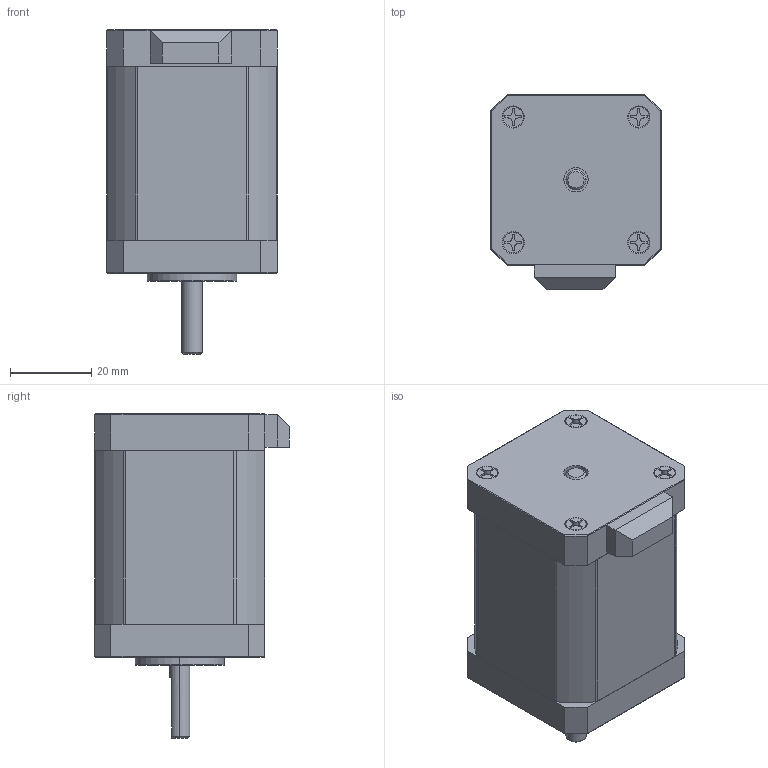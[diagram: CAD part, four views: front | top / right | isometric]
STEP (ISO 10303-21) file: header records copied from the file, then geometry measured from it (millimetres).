
FILE_DESCRIPTION (( 'STEP AP214' ), '1' );
FILE_NAME ('YK542HB60-4120A-01.STEP', '2023-12-21T05:53:34', ( '' ), ( '' ), 'SwSTEP 2.0', 'SolidWorks 2023', '' );
FILE_SCHEMA (( 'AUTOMOTIVE_DESIGN' ));
Length unit declared in the file: millimetre
Products named in the file (1): YK542HB60-4120A-01
Bounding box: 42 x 48 x 80 mm (x, y, z)
Volume: 95390.1 mm3; surface area: 18725.7 mm2
Topology: 2 solids, 2 shells, 323 faces, 833 edges, 540 vertices
Faces by surface type: cylinder 171, plane 124, cone 15, bspline 13
Entity records: 15059 total; most frequent: CARTESIAN_POINT 7763, ORIENTED_EDGE 1666, DIRECTION 1355, EDGE_CURVE 833, VERTEX_POINT 540, AXIS2_PLACEMENT_3D 456, LINE 443, VECTOR 443
